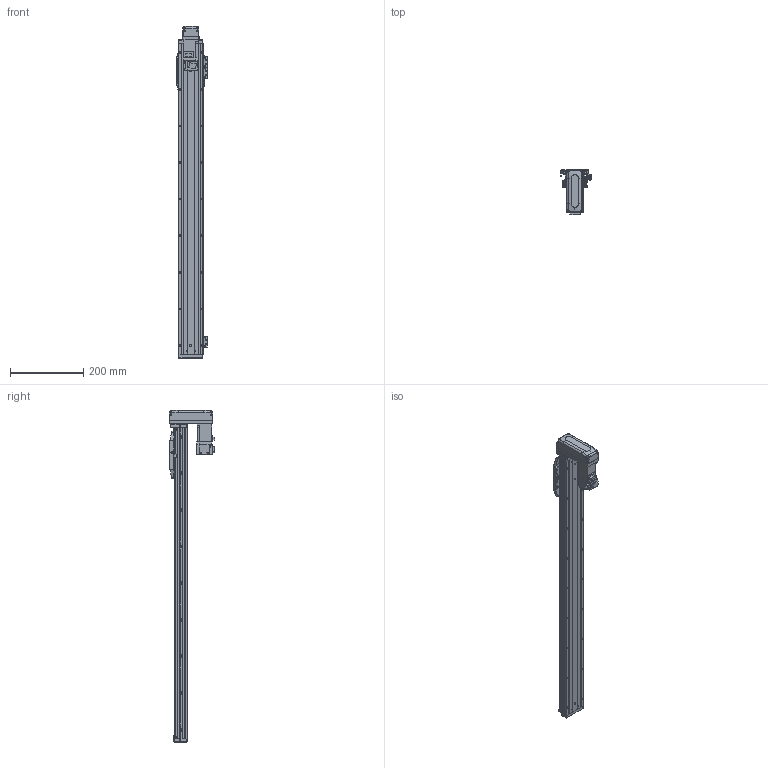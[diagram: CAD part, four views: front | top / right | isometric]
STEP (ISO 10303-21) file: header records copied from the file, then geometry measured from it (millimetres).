
FILE_DESCRIPTION (( 'STEP AP203' ), '1' );
FILE_NAME ('CTHA60-700-BM-M10-C4L.step', '2022-03-19T06:18:40', ( '微软用户' ), ( '微软中国' ), 'SwSTEP 2.0', 'SolidWorks 2020', '' );
FILE_SCHEMA (( 'CONFIG_CONTROL_DESIGN' ));
Length unit declared in the file: millimetre
Products named in the file (18): GBT 70.1-M4×16; CTHA60-031; CTHA60-004; GBT77-2000 M3×3; CTHA60-006-1; CTHA60-005; GBT 70.1-M3℅6; CTHA60-033; GB¨uT 70.2-M3¡Á6_M3¡Á6; GBT 70.3-M3℅6; CTHA60-700-BM-M10-C4L; EE_SX911P_R; CTHA60-016; CTHA60-017; HG-KR13（三菱）; CTHA60-021; CTHA60-002; CTHA60-001_850
Assembly tree (54 placements, depth 2):
  CTHA60-700-BM-M10-C4L
    CTHA60-001_850
    CTHA60-004
    CTHA60-005
    GB¨uT 70.2-M3¡Á6_M3¡Á6  x10
    EE_SX911P_R  x3
    CTHA60-017  x3
    CTHA60-021  x2
    GBT 70.1-M4×16  x10
    GBT77-2000 M3×3  x6
    GBT 70.1-M3℅6  x6
    GBT 70.3-M3℅6  x4
    CTHA60-016  x2
    HG-KR13（三菱）
    CTHA60-002
    CTHA60-031
    CTHA60-006-1
    CTHA60-033
Bounding box: 83.12 x 125.3 x 907 mm (x, y, z)
Volume: 1541924.1 mm3; surface area: 458430.7 mm2
Topology: 56 solids, 56 shells, 2554 faces, 6149 edges, 3793 vertices
Faces by surface type: plane 1473, cylinder 589, cone 344, torus 92, bspline 32, sphere 24
Entity records: 46303 total; most frequent: CARTESIAN_POINT 8922, DIRECTION 7166, ORIENTED_EDGE 7106, EDGE_CURVE 3553, VECTOR 2526, LINE 2526, AXIS2_PLACEMENT_3D 2320, VERTEX_POINT 2252
